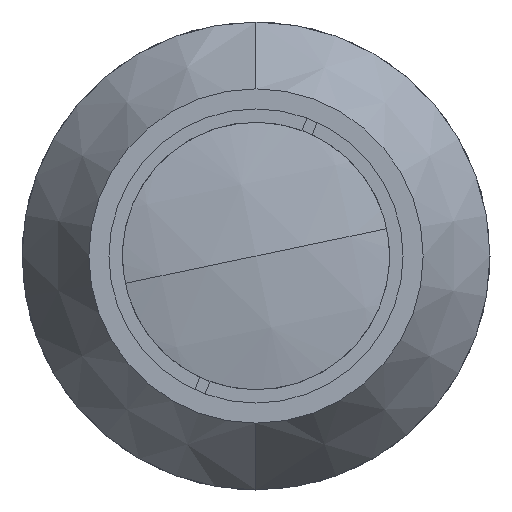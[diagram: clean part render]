
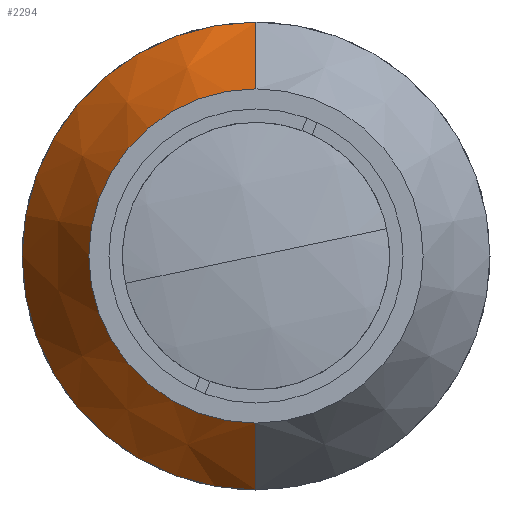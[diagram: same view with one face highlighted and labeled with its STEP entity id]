
A CAD part, left-side view. The second image highlights one B-rep face of the part: STEP entity #2294.
In plain terms, the highlighted conical face has half-angle 30 degrees and reference radius 21 mm.
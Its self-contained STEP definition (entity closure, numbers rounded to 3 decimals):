
#205 = CARTESIAN_POINT ( 'NONE',  ( 15., 0., 15. ) ) ;
#220 = VERTEX_POINT ( 'NONE', #2508 ) ;
#244 = ORIENTED_EDGE ( 'NONE', *, *, #1458, .T. ) ;
#259 = DIRECTION ( 'NONE',  ( 0., 0., -1. ) ) ;
#305 = AXIS2_PLACEMENT_3D ( 'NONE', #2595, #880, #2914 ) ;
#330 = AXIS2_PLACEMENT_3D ( 'NONE', #592, #2584, #866 ) ;
#592 = CARTESIAN_POINT ( 'NONE',  ( 25.392, 0., 0. ) ) ;
#676 = CONICAL_SURFACE ( 'NONE', #3614, 21., 0.524 ) ;
#866 = DIRECTION ( 'NONE',  ( 0., 0., 1. ) ) ;
#880 = DIRECTION ( 'NONE',  ( -1., 0., 0. ) ) ;
#891 = DIRECTION ( 'NONE',  ( 0.866, 0., 0.5 ) ) ;
#937 = FACE_OUTER_BOUND ( 'NONE', #1594, .T. ) ;
#1036 = VERTEX_POINT ( 'NONE', #205 ) ;
#1151 = CARTESIAN_POINT ( 'NONE',  ( 15., 0., -15. ) ) ;
#1234 = VECTOR ( 'NONE', #2614, 1000. ) ;
#1325 = CIRCLE ( 'NONE', #305, 15. ) ;
#1458 = EDGE_CURVE ( 'NONE', #2877, #220, #2209, .T. ) ;
#1475 = EDGE_CURVE ( 'NONE', #1036, #1480, #1325, .T. ) ;
#1480 = VERTEX_POINT ( 'NONE', #1151 ) ;
#1492 = EDGE_CURVE ( 'NONE', #1480, #220, #2787, .T. ) ;
#1495 = EDGE_CURVE ( 'NONE', #1036, #2877, #2076, .T. ) ;
#1594 = EDGE_LOOP ( 'NONE', ( #2641, #2948, #244, #2344 ) ) ;
#1874 = CARTESIAN_POINT ( 'NONE',  ( 25.392, 0., 21. ) ) ;
#1942 = DIRECTION ( 'NONE',  ( 1., 0., 0. ) ) ;
#2076 = LINE ( 'NONE', #3536, #3539 ) ;
#2209 = CIRCLE ( 'NONE', #330, 21. ) ;
#2294 = ADVANCED_FACE ( 'NONE', ( #937 ), #676, .T. ) ;
#2299 = CARTESIAN_POINT ( 'NONE',  ( 25.392, 0., -21. ) ) ;
#2344 = ORIENTED_EDGE ( 'NONE', *, *, #1492, .F. ) ;
#2508 = CARTESIAN_POINT ( 'NONE',  ( 25.392, 0., -21. ) ) ;
#2584 = DIRECTION ( 'NONE',  ( -1., 0., 0. ) ) ;
#2595 = CARTESIAN_POINT ( 'NONE',  ( 15., 0., 0. ) ) ;
#2614 = DIRECTION ( 'NONE',  ( 0.866, 0., -0.5 ) ) ;
#2641 = ORIENTED_EDGE ( 'NONE', *, *, #1475, .F. ) ;
#2787 = LINE ( 'NONE', #2299, #1234 ) ;
#2877 = VERTEX_POINT ( 'NONE', #1874 ) ;
#2914 = DIRECTION ( 'NONE',  ( 0., 0., 1. ) ) ;
#2948 = ORIENTED_EDGE ( 'NONE', *, *, #1495, .T. ) ;
#3145 = CARTESIAN_POINT ( 'NONE',  ( 25.392, 0., 0. ) ) ;
#3536 = CARTESIAN_POINT ( 'NONE',  ( 25.392, 0., 21. ) ) ;
#3539 = VECTOR ( 'NONE', #891, 1000. ) ;
#3614 = AXIS2_PLACEMENT_3D ( 'NONE', #3145, #1942, #259 ) ;
